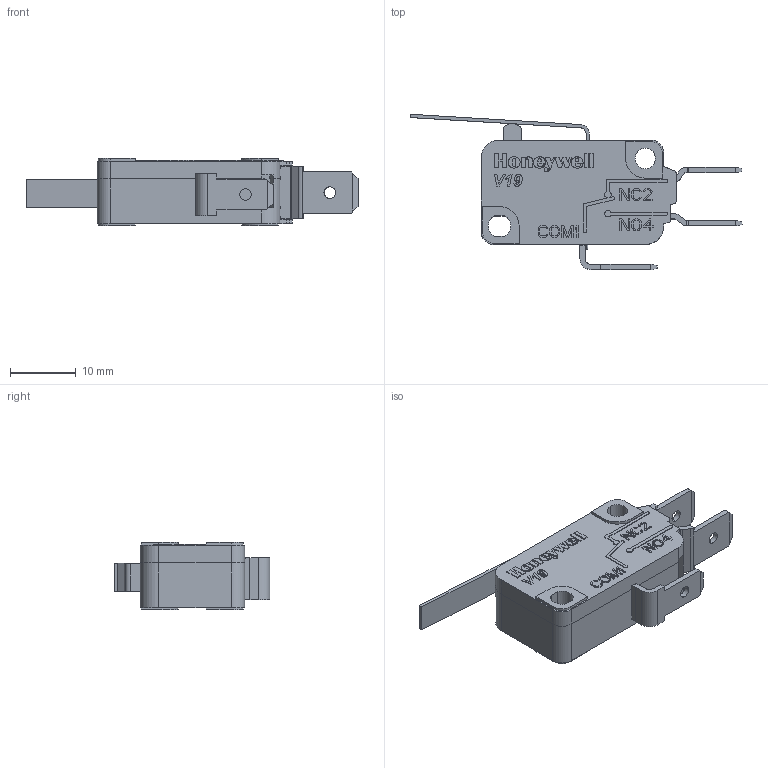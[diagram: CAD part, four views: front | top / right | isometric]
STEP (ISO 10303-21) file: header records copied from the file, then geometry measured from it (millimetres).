
FILE_DESCRIPTION((''),'2;1');
FILE_NAME('V19S05_TERMINAL_C_ASM','2020-06-16T13:44:46',('H252115'),(''),'CREO PARAMETRIC BY PTC INC, 2017380','CREO PARAMETRIC BY PTC INC, 2017380','');
FILE_SCHEMA(('CONFIG_CONTROL_DESIGN'));
Length unit declared in the file: millimetre
Products named in the file (13): V19__10; V19__100; V19_100; V19_C-1532900; V19T16_CC_0001; V19_C-4869500; V19__1000; V19__10006; V19T16-CZ100F00_ASM; LEVER_V-J2; V19S05_TERMINAL_C_ASM
Assembly tree (13 placements, depth 3):
  V19S05_TERMINAL_C_ASM
    V19T16-CZ100F00_ASM
      V19__10
      V19__100
      V19_100  x2
      V19_C-1532900
      V19__100
      V19T16_CC_0001
      V19_C-4869500
      V19__1000
      V19__1000
      V19__10006
    LEVER_V-J2
Bounding box: 50.51 x 23.64 x 10.2 mm (x, y, z)
Volume: 4739.6 mm3; surface area: 5235.1 mm2
Topology: 12 solids, 13 shells, 1115 faces, 3108 edges, 2055 vertices
Faces by surface type: plane 788, cylinder 174, extrusion 101, torus 29, bspline 13, cone 10
Entity records: 37637 total; most frequent: CARTESIAN_POINT 9623, ORIENTED_EDGE 6028, DIRECTION 5298, EDGE_CURVE 3014, VECTOR 2430, LINE 2329, VERTEX_POINT 1997, AXIS2_PLACEMENT_3D 1434
